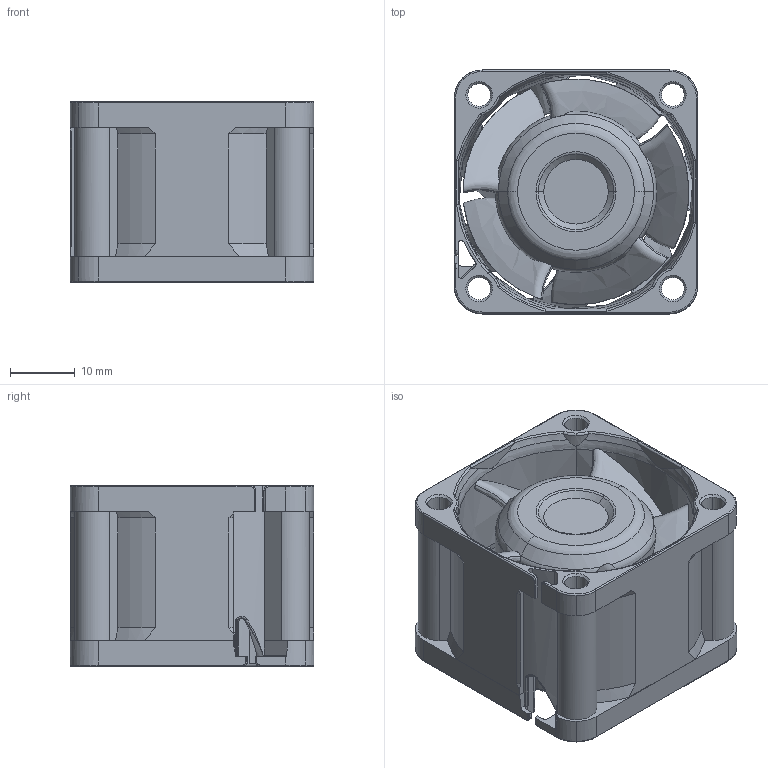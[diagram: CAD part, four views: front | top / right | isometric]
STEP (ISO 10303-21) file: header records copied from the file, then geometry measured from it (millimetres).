
FILE_DESCRIPTION (( 'STEP AP203' ), '1' );
FILE_NAME ('38x28GA_ribbed.STEP', '2017-01-31T09:32:42', ( '' ), ( '' ), 'SwSTEP 2.0', 'SolidWorks 2016', '' );
FILE_SCHEMA (( 'CONFIG_CONTROL_DESIGN' ));
Length unit declared in the file: millimetre
Products named in the file (1): 38x28GA_ribbed
Bounding box: 37.8 x 37.8 x 28 mm (x, y, z)
Volume: 20421.9 mm3; surface area: 14644.4 mm2
Topology: 1 solids, 1 shells, 364 faces, 1084 edges, 716 vertices
Faces by surface type: cylinder 111, cone 75, plane 74, torus 59, bspline 45
Entity records: 22128 total; most frequent: CARTESIAN_POINT 13565, ORIENTED_EDGE 2168, DIRECTION 1230, EDGE_CURVE 1084, VERTEX_POINT 716, B_SPLINE_CURVE_WITH_KNOTS 682, AXIS2_PLACEMENT_3D 508, EDGE_LOOP 380
